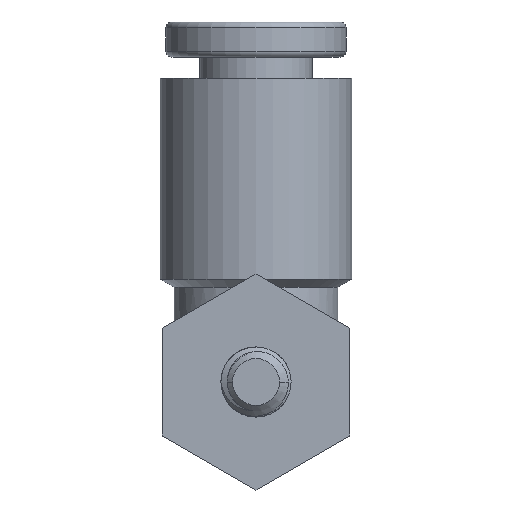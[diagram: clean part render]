
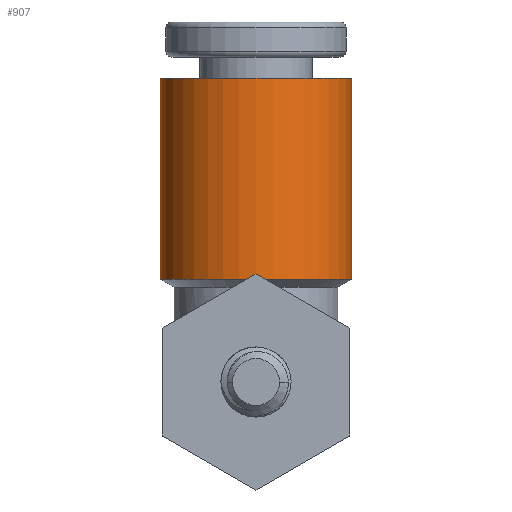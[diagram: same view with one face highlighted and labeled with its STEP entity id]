
A CAD part, front view. The second image highlights one B-rep face of the part: STEP entity #907.
In plain terms, the highlighted cylindrical face has radius 4.1 mm (diameter 8.2 mm), a partial arc.
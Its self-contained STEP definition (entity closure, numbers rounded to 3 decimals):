
#58 = CARTESIAN_POINT ( 'NONE',  ( -4.1, 0., 13. ) ) ;
#88 = VERTEX_POINT ( 'NONE', #1059 ) ;
#218 = VERTEX_POINT ( 'NONE', #2080 ) ;
#237 = AXIS2_PLACEMENT_3D ( 'NONE', #1113, #1543, #712 ) ;
#361 = CARTESIAN_POINT ( 'NONE',  ( -4.1, 0., 4.4 ) ) ;
#363 = FACE_OUTER_BOUND ( 'NONE', #1935, .T. ) ;
#438 = EDGE_CURVE ( 'NONE', #1675, #218, #2083, .T. ) ;
#456 = VECTOR ( 'NONE', #1082, 1000. ) ;
#477 = LINE ( 'NONE', #58, #2367 ) ;
#580 = ORIENTED_EDGE ( 'NONE', *, *, #687, .F. ) ;
#687 = EDGE_CURVE ( 'NONE', #1337, #88, #477, .T. ) ;
#712 = DIRECTION ( 'NONE',  ( 1., 0., 0. ) ) ;
#747 = AXIS2_PLACEMENT_3D ( 'NONE', #857, #2030, #2239 ) ;
#857 = CARTESIAN_POINT ( 'NONE',  ( 0., 0., 4.4 ) ) ;
#907 = ADVANCED_FACE ( 'NONE', ( #363 ), #1392, .T. ) ;
#942 = CARTESIAN_POINT ( 'NONE',  ( 4.1, 0., 4.4 ) ) ;
#1015 = CARTESIAN_POINT ( 'NONE',  ( 0., 0., 13. ) ) ;
#1024 = EDGE_CURVE ( 'NONE', #1337, #1675, #2155, .T. ) ;
#1059 = CARTESIAN_POINT ( 'NONE',  ( -4.1, 0., 13. ) ) ;
#1082 = DIRECTION ( 'NONE',  ( 0., 0., 1. ) ) ;
#1113 = CARTESIAN_POINT ( 'NONE',  ( 0., 0., 13. ) ) ;
#1186 = DIRECTION ( 'NONE',  ( 1., 0., 0. ) ) ;
#1219 = AXIS2_PLACEMENT_3D ( 'NONE', #1015, #2170, #1186 ) ;
#1273 = EDGE_CURVE ( 'NONE', #88, #218, #2524, .T. ) ;
#1337 = VERTEX_POINT ( 'NONE', #361 ) ;
#1392 = CYLINDRICAL_SURFACE ( 'NONE', #1219, 4.1 ) ;
#1487 = ORIENTED_EDGE ( 'NONE', *, *, #438, .T. ) ;
#1543 = DIRECTION ( 'NONE',  ( 0., 0., 1. ) ) ;
#1665 = ORIENTED_EDGE ( 'NONE', *, *, #1273, .F. ) ;
#1675 = VERTEX_POINT ( 'NONE', #942 ) ;
#1847 = ORIENTED_EDGE ( 'NONE', *, *, #1024, .T. ) ;
#1935 = EDGE_LOOP ( 'NONE', ( #580, #1847, #1487, #1665 ) ) ;
#2030 = DIRECTION ( 'NONE',  ( 0., 0., 1. ) ) ;
#2080 = CARTESIAN_POINT ( 'NONE',  ( 4.1, 0., 13. ) ) ;
#2083 = LINE ( 'NONE', #2273, #456 ) ;
#2155 = CIRCLE ( 'NONE', #747, 4.1 ) ;
#2170 = DIRECTION ( 'NONE',  ( 0., 0., 1. ) ) ;
#2239 = DIRECTION ( 'NONE',  ( 1., 0., 0. ) ) ;
#2273 = CARTESIAN_POINT ( 'NONE',  ( 4.1, 0., 13. ) ) ;
#2367 = VECTOR ( 'NONE', #2456, 1000. ) ;
#2456 = DIRECTION ( 'NONE',  ( 0., 0., 1. ) ) ;
#2524 = CIRCLE ( 'NONE', #237, 4.1 ) ;
